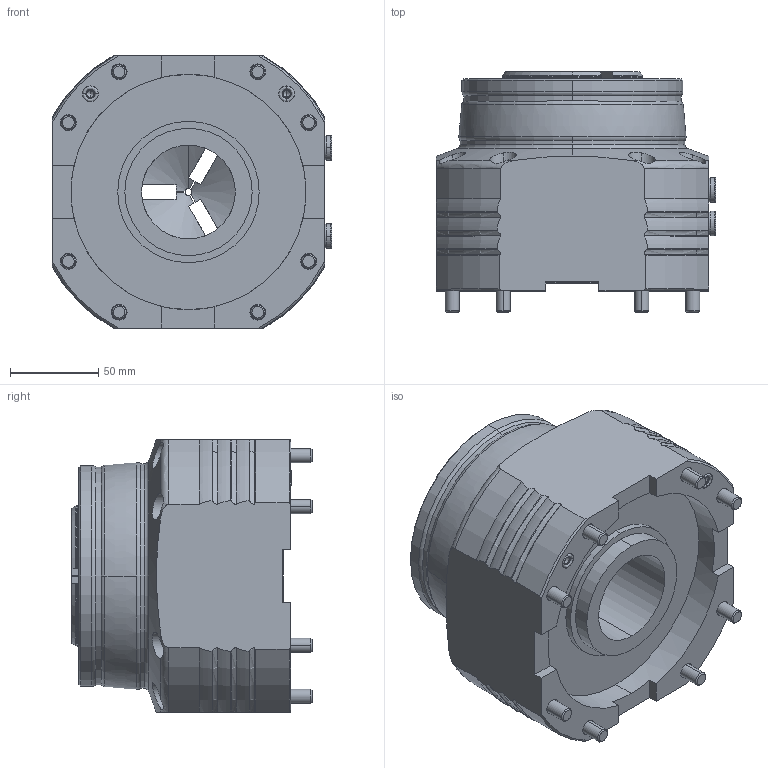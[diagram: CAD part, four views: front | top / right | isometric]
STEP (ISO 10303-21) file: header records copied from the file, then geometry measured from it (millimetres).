
FILE_DESCRIPTION (( 'STEP AP203' ), '1' );
FILE_NAME ('HYDROK_RD_Gr52_1121_0004.STEP', '2012-12-19T09:18:14', ( '' ), ( '' ), 'SwSTEP 2.0', 'SolidWorks 2010', '' );
FILE_SCHEMA (( 'CONFIG_CONTROL_DESIGN' ));
Length unit declared in the file: millimetre
Products named in the file (1): HYDROK_RD_Gr52_1121_0004
Bounding box: 158 x 136 x 154 mm (x, y, z)
Volume: 1796333.9 mm3; surface area: 200232.7 mm2
Topology: 19 solids, 19 shells, 661 faces, 1682 edges, 1053 vertices
Faces by surface type: plane 234, cylinder 165, torus 118, cone 116, bspline 28
Entity records: 23100 total; most frequent: CARTESIAN_POINT 7381, DIRECTION 3299, ORIENTED_EDGE 3268, EDGE_CURVE 1634, AXIS2_PLACEMENT_3D 1337, VERTEX_POINT 1053, EDGE_LOOP 729, CIRCLE 703
